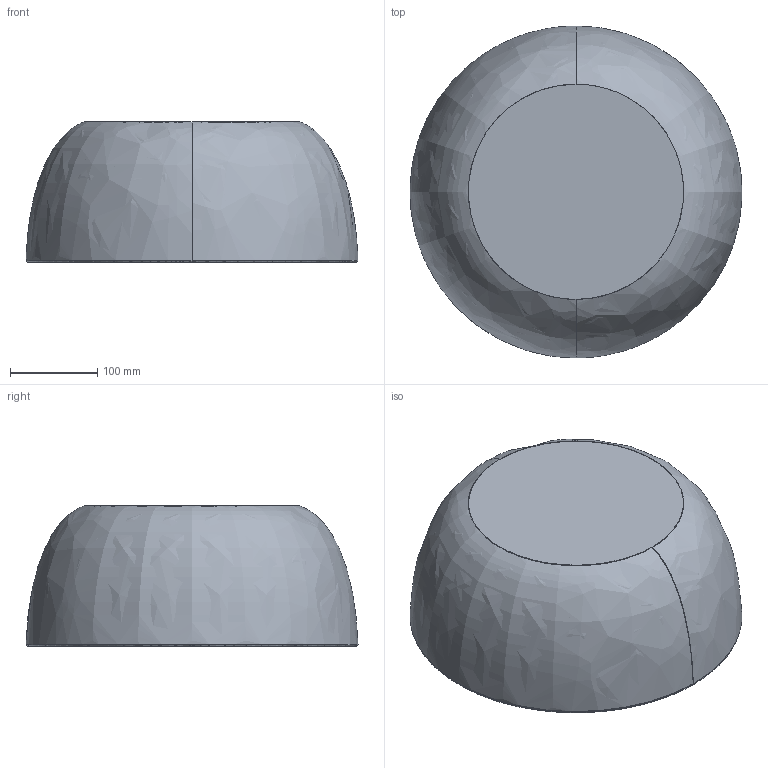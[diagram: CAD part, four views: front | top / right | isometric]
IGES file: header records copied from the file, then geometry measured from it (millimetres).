
Start section: SolidWorks IGES file using analytic representation for surfaces
Global section: file name: C:\Users\anna.bielnik\Desktop\modele 3D tymczasowe\SATELITE\SATELLITE-S\SATELLITE 380 - z³o¿enie PM.IGS; native system: SolidWorks 2023; preprocessor: SolidWorks 2023; author: anna.bielnik; date: 230628.090127; units: millimetre
Bounding box: 379.87 x 380.17 x 160.6 mm (x, y, z)
Surface area: 759907.3 mm2 (no closed solid volume)
Topology: 0 solids, 0 shells, 57 faces, 834 edges, 828 vertices
Faces by surface type: bspline 42, revolution 15
